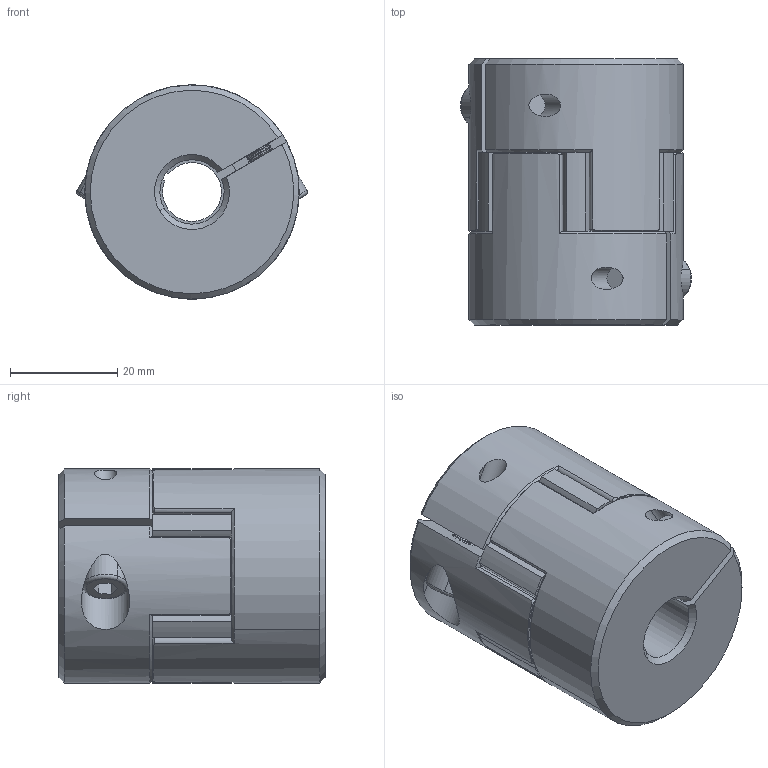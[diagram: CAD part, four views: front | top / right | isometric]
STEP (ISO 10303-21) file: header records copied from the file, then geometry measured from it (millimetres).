
FILE_DESCRIPTION (( 'STEP AP203' ), '1' );
FILE_NAME ('LF-B-D40L50-11-12.STEP', '2021-10-25T02:41:27', ( '' ), ( '' ), 'SwSTEP 2.0', 'SolidWorks 2018', '' );
FILE_SCHEMA (( 'CONFIG_CONTROL_DESIGN' ));
Length unit declared in the file: millimetre
Products named in the file (1): LF-B-D40L50-11-12
Bounding box: 43.11 x 49.7 x 40 mm (x, y, z)
Volume: 53232 mm3; surface area: 14666.1 mm2
Topology: 1 solids, 7 shells, 471 faces, 1117 edges, 662 vertices
Faces by surface type: cone 170, cylinder 169, plane 128, torus 4
Entity records: 13972 total; most frequent: CARTESIAN_POINT 2895, DIRECTION 2509, ORIENTED_EDGE 2226, EDGE_CURVE 1113, AXIS2_PLACEMENT_3D 1040, VERTEX_POINT 662, CIRCLE 568, EDGE_LOOP 487
